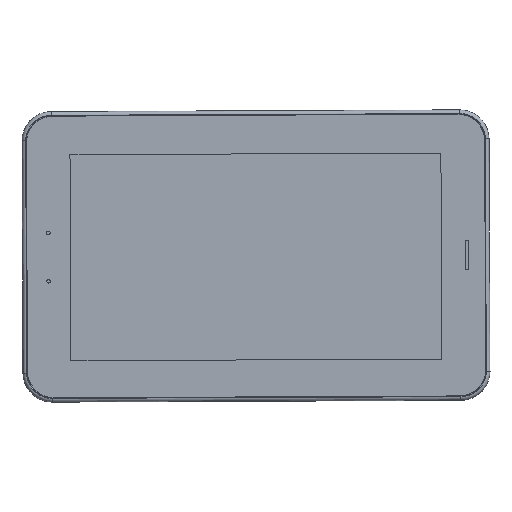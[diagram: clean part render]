
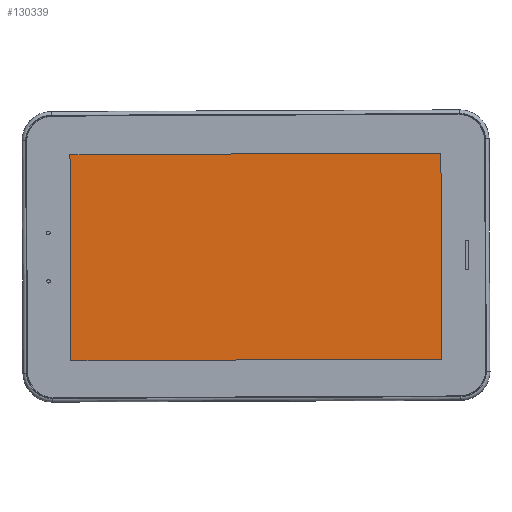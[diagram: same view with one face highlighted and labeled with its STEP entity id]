
A CAD part, front view. The second image highlights one B-rep face of the part: STEP entity #130339.
In plain terms, the highlighted planar face has unit normal (0, -1, 0).
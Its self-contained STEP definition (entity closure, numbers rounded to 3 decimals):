
#4239 = VERTEX_POINT ( 'NONE', #8083 ) ;
#7998 = VERTEX_POINT ( 'NONE', #91612 ) ;
#8083 = CARTESIAN_POINT ( 'NONE',  ( 76.453, -0.24, 65.831 ) ) ;
#10862 = CARTESIAN_POINT ( 'NONE',  ( 76.453, -0.24, 65.831 ) ) ;
#20271 = LINE ( 'NONE', #85930, #65273 ) ;
#22679 = CARTESIAN_POINT ( 'NONE',  ( -76.54, -0.24, -20.097 ) ) ;
#33411 = VECTOR ( 'NONE', #103887, 1000. ) ;
#33648 = EDGE_LOOP ( 'NONE', ( #111828, #118963, #80411, #139931 ) ) ;
#34033 = EDGE_CURVE ( 'NONE', #138176, #94237, #20271, .T. ) ;
#37512 = CARTESIAN_POINT ( 'NONE',  ( 0.005, -0.24, 23.217 ) ) ;
#38939 = CARTESIAN_POINT ( 'NONE',  ( 76.858, -0.24, -19.368 ) ) ;
#45227 = LINE ( 'NONE', #113020, #143205 ) ;
#47213 = VECTOR ( 'NONE', #110025, 1000. ) ;
#49165 = FACE_OUTER_BOUND ( 'NONE', #33648, .T. ) ;
#52474 = LINE ( 'NONE', #10862, #47213 ) ;
#58345 = DIRECTION ( 'NONE',  ( -0.005, 0., 1. ) ) ;
#60825 = LINE ( 'NONE', #38939, #33411 ) ;
#65273 = VECTOR ( 'NONE', #98300, 1000. ) ;
#69485 = EDGE_CURVE ( 'NONE', #7998, #4239, #45227, .T. ) ;
#80411 = ORIENTED_EDGE ( 'NONE', *, *, #34033, .T. ) ;
#85930 = CARTESIAN_POINT ( 'NONE',  ( -76.54, -0.24, -20.097 ) ) ;
#91612 = CARTESIAN_POINT ( 'NONE',  ( 76.858, -0.24, -19.368 ) ) ;
#94237 = VERTEX_POINT ( 'NONE', #22679 ) ;
#98300 = DIRECTION ( 'NONE',  ( 0.005, 0., -1. ) ) ;
#103148 = PLANE ( 'NONE',  #122988 ) ;
#103887 = DIRECTION ( 'NONE',  ( 1., 0., 0.005 ) ) ;
#105576 = EDGE_CURVE ( 'NONE', #94237, #7998, #60825, .T. ) ;
#110025 = DIRECTION ( 'NONE',  ( -1., 0., -0.005 ) ) ;
#111828 = ORIENTED_EDGE ( 'NONE', *, *, #69485, .T. ) ;
#113020 = CARTESIAN_POINT ( 'NONE',  ( 76.858, -0.24, -19.368 ) ) ;
#118963 = ORIENTED_EDGE ( 'NONE', *, *, #140971, .T. ) ;
#122988 = AXIS2_PLACEMENT_3D ( 'NONE', #37512, #127180, #126454 ) ;
#126454 = DIRECTION ( 'NONE',  ( -1., 0., -0.005 ) ) ;
#127180 = DIRECTION ( 'NONE',  ( 0., -1., 0. ) ) ;
#128130 = CARTESIAN_POINT ( 'NONE',  ( -76.945, -0.24, 65.102 ) ) ;
#130339 = ADVANCED_FACE ( 'NONE', ( #49165 ), #103148, .T. ) ;
#138176 = VERTEX_POINT ( 'NONE', #128130 ) ;
#139931 = ORIENTED_EDGE ( 'NONE', *, *, #105576, .T. ) ;
#140971 = EDGE_CURVE ( 'NONE', #4239, #138176, #52474, .T. ) ;
#143205 = VECTOR ( 'NONE', #58345, 1000. ) ;
